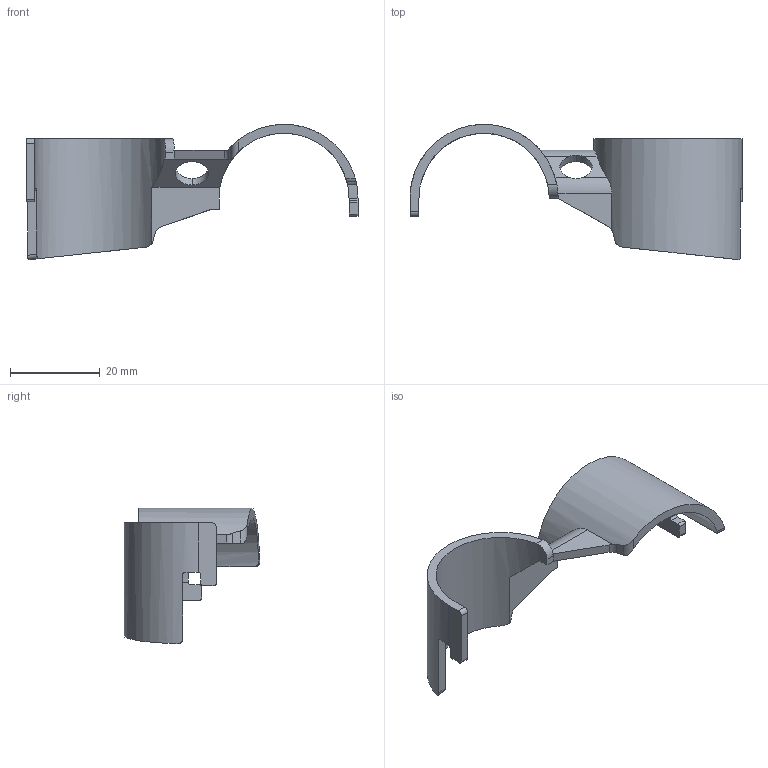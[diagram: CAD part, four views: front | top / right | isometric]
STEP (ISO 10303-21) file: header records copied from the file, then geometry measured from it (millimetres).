
FILE_DESCRIPTION (( 'STEP AP203' ), '1' );
FILE_NAME ('015.100.006.STEP', '2016-10-24T07:27:22', ( '' ), ( '' ), 'SwSTEP 2.0', 'SolidWorks 2016', '' );
FILE_SCHEMA (( 'CONFIG_CONTROL_DESIGN' ));
Length unit declared in the file: millimetre
Products named in the file (1): 015.100.006
Bounding box: 74 x 30.18 x 30.18 mm (x, y, z)
Volume: 4691.1 mm3; surface area: 5333.2 mm2
Topology: 1 solids, 1 shells, 57 faces, 164 edges, 108 vertices
Faces by surface type: plane 31, cylinder 26
Entity records: 2117 total; most frequent: CARTESIAN_POINT 590, ORIENTED_EDGE 328, DIRECTION 280, EDGE_CURVE 164, VERTEX_POINT 108, AXIS2_PLACEMENT_3D 96, LINE 88, VECTOR 88
